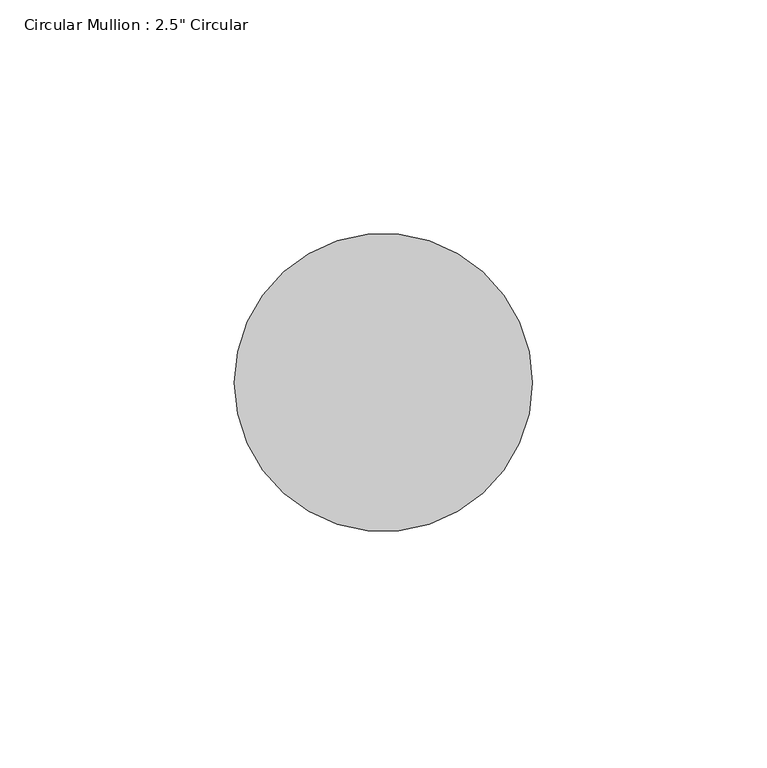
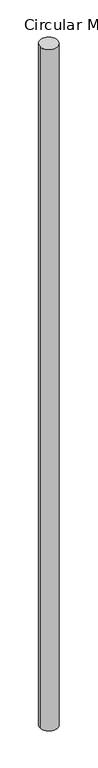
"""IFC4 building model written with IfcOpenShell, lengths in millimetres: member geometry."""

from ifc_helpers import new_model, si_unit, frame, origin, origin_with_axes, place, context, project, spatial, circle_curve, ellipse_curve, source, transform, mapped, element, save
from ifc_brep_helpers import plane_surface, cylinder_surface, advanced_brep


def member_fef315e6(model_context):
    return source(origin(), model_context, "Body", "AdvancedBrep", [
        advanced_brep(
        [(31.75, 0.0, -2540.3004785), (-31.75, 0.0, -2540.3004785), (-31.75, 0.0, -0.0087954), (31.75, 0.0, 0.0087954)],
        [
            (0, 1, circle_curve(frame((0.0, 0.0, -2540.3004785), z_axis=(0.0, 0.0, -1.0), x_axis=(1.0, 0.0, 0.0)), 31.75)),
            (1, 0, circle_curve(frame((0.0, 0.0, -2540.3004785), z_axis=(0.0, 0.0, -1.0), x_axis=(1.0, 0.0, 0.0)), 31.75)),
            (2, 3, ellipse_curve(frame((0.0, 0.0, 0.0), z_axis=(0.00027657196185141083, 0.056956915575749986, -0.9983765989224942), x_axis=(0.004847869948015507, 0.9983648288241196, 0.05695758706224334)), 31.8016268, 31.75)),
            (3, 0),
            (1, 2),
            (3, 2, ellipse_curve(frame((0.0, 0.0, 0.0), z_axis=(0.00027657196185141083, 0.056956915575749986, -0.9983765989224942), x_axis=(0.004847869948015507, 0.9983648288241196, 0.05695758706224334)), 31.8016268, 31.75)),
        ],
        [
            plane_surface(frame((0.0, -31.75, -2540.3004785), z_axis=(0.0, 0.0, -1.0), x_axis=(-1.0, 0.0, 0.0))),
            cylinder_surface(origin_with_axes(), 31.75),
            plane_surface(frame((304.7964066, -1.4800334, 0.0), z_axis=(-0.00027657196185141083, -0.056956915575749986, 0.9983765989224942), x_axis=(-0.004847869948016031, -0.9983648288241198, -0.056957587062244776))),
        ],
        [
            (0, [[1, 2]]),
            (1, [[3, 4, -2, 5]]),
            (1, [[6, -5, -1, -4]]),
            (2, [[-3, -6]]),
        ],
    ),
    ])


if __name__ == "__main__":
    model = new_model("IFC4")
    model_context = context("Model", 3, world=origin())
    ifc_project = project(units=[si_unit("LENGTHUNIT", "METRE", prefix="MILLI")], contexts=[model_context])
    site = spatial("IfcSite", under=ifc_project)
    building = spatial("IfcBuilding", under=site)
    placement = place(None, origin())
    member_shape = member_fef315e6(model_context)
    element("IfcMember", 1, ObjectType="Circular Mullion : 2.5\" Circular", at=placement, inside=building, context=model_context, shape_type="MappedRepresentation", body=[
        mapped(member_shape, transform((0.0, 0.0, 0.0), x_axis=(1.0, 0.0, 0.0), y_axis=(0.0, 1.0, 0.0), z_axis=(0.0, 0.0, 1.0))),
    ])
    save(model, "model.ifc")
